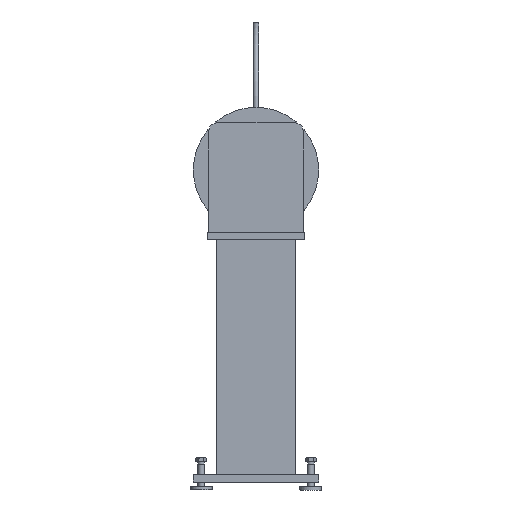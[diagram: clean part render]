
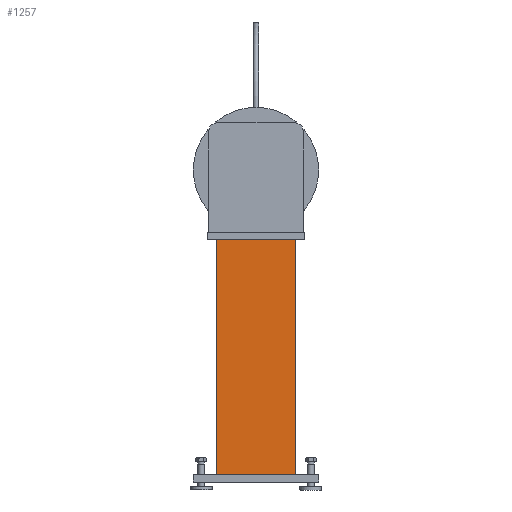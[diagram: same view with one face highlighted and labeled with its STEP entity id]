
A CAD part, front view. The second image highlights one B-rep face of the part: STEP entity #1257.
In plain terms, the highlighted planar face has unit normal (0, -1, 0).
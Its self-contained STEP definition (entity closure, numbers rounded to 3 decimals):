
#201=CARTESIAN_POINT('',(125.,-1487.5,607.5));
#202=VERTEX_POINT('',#201);
#209=CARTESIAN_POINT('',(125.,-1487.5,-140.));
#210=VERTEX_POINT('',#209);
#211=CARTESIAN_POINT('',(125.,-1487.5,-140.));
#212=DIRECTION('',(0.0,0.0,1.0));
#213=VECTOR('',#212,747.5);
#214=LINE('',#211,#213);
#215=EDGE_CURVE('',#210,#202,#214,.T.);
#460=CARTESIAN_POINT('',(-125.,-1487.5,-140.));
#461=VERTEX_POINT('',#460);
#462=CARTESIAN_POINT('',(125.,-1487.5,-140.));
#463=DIRECTION('',(-1.0,0.0,0.0));
#464=VECTOR('',#463,250.0);
#465=LINE('',#462,#464);
#466=EDGE_CURVE('',#210,#461,#465,.T.);
#632=CARTESIAN_POINT('',(-125.,-1487.5,607.5));
#633=VERTEX_POINT('',#632);
#634=CARTESIAN_POINT('',(-125.,-1487.5,-140.));
#635=DIRECTION('',(0.0,0.0,1.0));
#636=VECTOR('',#635,747.5);
#637=LINE('',#634,#636);
#638=EDGE_CURVE('',#461,#633,#637,.T.);
#1109=CARTESIAN_POINT('',(-125.,-1487.5,607.5));
#1110=DIRECTION('',(1.0,0.0,0.0));
#1111=VECTOR('',#1110,250.0);
#1112=LINE('',#1109,#1111);
#1113=EDGE_CURVE('',#633,#202,#1112,.T.);
#1246=CARTESIAN_POINT('',(109.,-1487.5,233.75));
#1247=DIRECTION('',(0.0,-1.0,0.0));
#1248=DIRECTION('',(1.0,0.0,0.0));
#1249=AXIS2_PLACEMENT_3D('',#1246,#1247,#1248);
#1250=PLANE('',#1249);
#1251=ORIENTED_EDGE('',*,*,#1113,.F.);
#1252=ORIENTED_EDGE('',*,*,#638,.F.);
#1253=ORIENTED_EDGE('',*,*,#466,.F.);
#1254=ORIENTED_EDGE('',*,*,#215,.T.);
#1255=EDGE_LOOP('',(#1251,#1252,#1253,#1254));
#1256=FACE_OUTER_BOUND('',#1255,.T.);
#1257=ADVANCED_FACE('',(#1256),#1250,.T.);
